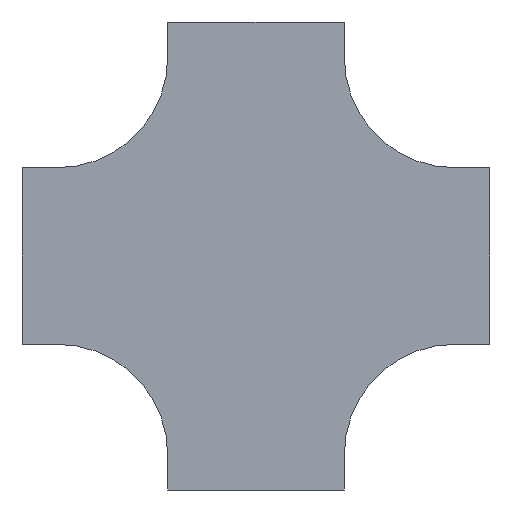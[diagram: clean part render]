
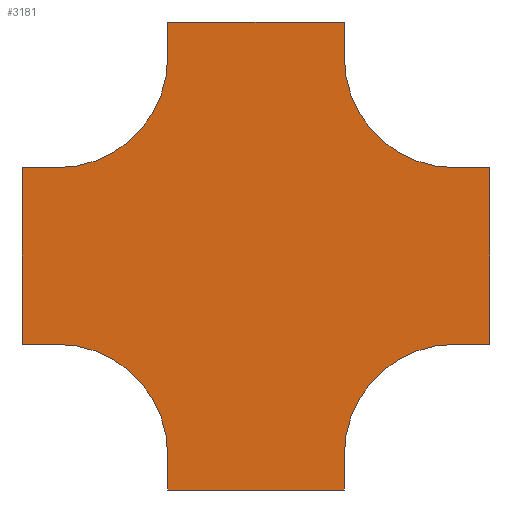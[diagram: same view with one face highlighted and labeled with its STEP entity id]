
A CAD part, front view. The second image highlights one B-rep face of the part: STEP entity #3181.
In plain terms, the highlighted planar face has unit normal (0, -1, 0).
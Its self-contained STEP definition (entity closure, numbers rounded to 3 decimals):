
#13 = CARTESIAN_POINT ( 'NONE',  ( -125., 0., 40. ) ) ;
#38 = VERTEX_POINT ( 'NONE', #2013 ) ;
#52 = DIRECTION ( 'NONE',  ( 1., 0., 0. ) ) ;
#57 = PLANE ( 'NONE',  #2842 ) ;
#70 = LINE ( 'NONE', #1831, #264 ) ;
#88 = ORIENTED_EDGE ( 'NONE', *, *, #3221, .F. ) ;
#125 = ORIENTED_EDGE ( 'NONE', *, *, #2780, .F. ) ;
#154 = DIRECTION ( 'NONE',  ( 1., 0., 0. ) ) ;
#181 = VERTEX_POINT ( 'NONE', #1371 ) ;
#193 = VERTEX_POINT ( 'NONE', #886 ) ;
#221 = EDGE_CURVE ( 'NONE', #1840, #2786, #3139, .T. ) ;
#231 = DIRECTION ( 'NONE',  ( 0., 0., 1. ) ) ;
#264 = VECTOR ( 'NONE', #332, 1000. ) ;
#267 = CARTESIAN_POINT ( 'NONE',  ( -490., 0., -125. ) ) ;
#281 = ORIENTED_EDGE ( 'NONE', *, *, #2448, .F. ) ;
#302 = FACE_OUTER_BOUND ( 'NONE', #2441, .T. ) ;
#308 = VECTOR ( 'NONE', #3103, 1000. ) ;
#332 = DIRECTION ( 'NONE',  ( -1., 0., 0. ) ) ;
#336 = LINE ( 'NONE', #13, #2430 ) ;
#402 = EDGE_CURVE ( 'NONE', #181, #38, #812, .T. ) ;
#405 = CARTESIAN_POINT ( 'NONE',  ( -450., 0., 0. ) ) ;
#409 = EDGE_CURVE ( 'NONE', #2172, #2983, #2865, .T. ) ;
#461 = EDGE_CURVE ( 'NONE', #2983, #3043, #1763, .T. ) ;
#510 = CARTESIAN_POINT ( 'NONE',  ( 0., 0., 0. ) ) ;
#514 = ORIENTED_EDGE ( 'NONE', *, *, #1442, .F. ) ;
#522 = LINE ( 'NONE', #1830, #3028 ) ;
#548 = ORIENTED_EDGE ( 'NONE', *, *, #409, .F. ) ;
#569 = CARTESIAN_POINT ( 'NONE',  ( 0., 0., -325. ) ) ;
#582 = CIRCLE ( 'NONE', #1319, 125. ) ;
#694 = CARTESIAN_POINT ( 'NONE',  ( 40., 0., -125. ) ) ;
#695 = DIRECTION ( 'NONE',  ( 0., -1., 0. ) ) ;
#705 = EDGE_CURVE ( 'NONE', #813, #181, #582, .T. ) ;
#716 = VERTEX_POINT ( 'NONE', #2470 ) ;
#733 = ORIENTED_EDGE ( 'NONE', *, *, #705, .F. ) ;
#753 = CARTESIAN_POINT ( 'NONE',  ( 0., 0., -450. ) ) ;
#756 = LINE ( 'NONE', #694, #2759 ) ;
#801 = VECTOR ( 'NONE', #231, 1000. ) ;
#812 = LINE ( 'NONE', #1789, #801 ) ;
#813 = VERTEX_POINT ( 'NONE', #1455 ) ;
#870 = CARTESIAN_POINT ( 'NONE',  ( -490., 0., -125. ) ) ;
#878 = CARTESIAN_POINT ( 'NONE',  ( -450., 0., -325. ) ) ;
#884 = AXIS2_PLACEMENT_3D ( 'NONE', #753, #1264, #2279 ) ;
#885 = EDGE_CURVE ( 'NONE', #2139, #2219, #1529, .T. ) ;
#886 = CARTESIAN_POINT ( 'NONE',  ( -325., 0., -490. ) ) ;
#889 = VERTEX_POINT ( 'NONE', #2749 ) ;
#918 = DIRECTION ( 'NONE',  ( -1., 0., 0. ) ) ;
#934 = VECTOR ( 'NONE', #154, 1000. ) ;
#975 = ORIENTED_EDGE ( 'NONE', *, *, #3261, .F. ) ;
#993 = ORIENTED_EDGE ( 'NONE', *, *, #2435, .F. ) ;
#1008 = EDGE_CURVE ( 'NONE', #1964, #193, #70, .T. ) ;
#1068 = ORIENTED_EDGE ( 'NONE', *, *, #461, .F. ) ;
#1071 = CARTESIAN_POINT ( 'NONE',  ( 0., 0., 0. ) ) ;
#1078 = LINE ( 'NONE', #1342, #1432 ) ;
#1116 = CARTESIAN_POINT ( 'NONE',  ( -325., 0., -450. ) ) ;
#1149 = CARTESIAN_POINT ( 'NONE',  ( -125., 0., 0. ) ) ;
#1161 = AXIS2_PLACEMENT_3D ( 'NONE', #2051, #1759, #3053 ) ;
#1171 = LINE ( 'NONE', #2412, #934 ) ;
#1172 = VECTOR ( 'NONE', #3042, 1000. ) ;
#1190 = CARTESIAN_POINT ( 'NONE',  ( -490., 0., -325. ) ) ;
#1206 = DIRECTION ( 'NONE',  ( 0., 0., 1. ) ) ;
#1252 = CARTESIAN_POINT ( 'NONE',  ( 0., 0., -325. ) ) ;
#1264 = DIRECTION ( 'NONE',  ( 0., -1., 0. ) ) ;
#1292 = VERTEX_POINT ( 'NONE', #1252 ) ;
#1315 = CARTESIAN_POINT ( 'NONE',  ( -125., 0., -490. ) ) ;
#1319 = AXIS2_PLACEMENT_3D ( 'NONE', #405, #695, #1206 ) ;
#1342 = CARTESIAN_POINT ( 'NONE',  ( -450., 0., -125. ) ) ;
#1361 = CIRCLE ( 'NONE', #884, 125. ) ;
#1371 = CARTESIAN_POINT ( 'NONE',  ( -325., 0., 0. ) ) ;
#1383 = LINE ( 'NONE', #878, #2205 ) ;
#1406 = ORIENTED_EDGE ( 'NONE', *, *, #2043, .F. ) ;
#1432 = VECTOR ( 'NONE', #52, 1000. ) ;
#1442 = EDGE_CURVE ( 'NONE', #2786, #813, #1078, .T. ) ;
#1455 = CARTESIAN_POINT ( 'NONE',  ( -450., 0., -125. ) ) ;
#1529 = CIRCLE ( 'NONE', #1161, 125. ) ;
#1532 = DIRECTION ( 'NONE',  ( 0., 0., 1. ) ) ;
#1689 = ORIENTED_EDGE ( 'NONE', *, *, #3086, .F. ) ;
#1708 = CARTESIAN_POINT ( 'NONE',  ( 0., 0., -125. ) ) ;
#1759 = DIRECTION ( 'NONE',  ( 0., -1., 0. ) ) ;
#1760 = CARTESIAN_POINT ( 'NONE',  ( 40., 0., -125. ) ) ;
#1763 = LINE ( 'NONE', #2027, #1172 ) ;
#1789 = CARTESIAN_POINT ( 'NONE',  ( -325., 0., 40. ) ) ;
#1830 = CARTESIAN_POINT ( 'NONE',  ( -325., 0., -490. ) ) ;
#1831 = CARTESIAN_POINT ( 'NONE',  ( -325., 0., -490. ) ) ;
#1840 = VERTEX_POINT ( 'NONE', #1190 ) ;
#1841 = DIRECTION ( 'NONE',  ( 0., 0., 1. ) ) ;
#1865 = ORIENTED_EDGE ( 'NONE', *, *, #402, .F. ) ;
#1876 = EDGE_CURVE ( 'NONE', #3043, #2204, #756, .T. ) ;
#1964 = VERTEX_POINT ( 'NONE', #1315 ) ;
#1999 = ORIENTED_EDGE ( 'NONE', *, *, #885, .F. ) ;
#2009 = DIRECTION ( 'NONE',  ( 0., -1., 0. ) ) ;
#2013 = CARTESIAN_POINT ( 'NONE',  ( -325., 0., 40. ) ) ;
#2021 = VECTOR ( 'NONE', #1841, 1000. ) ;
#2027 = CARTESIAN_POINT ( 'NONE',  ( 0., 0., -125. ) ) ;
#2038 = LINE ( 'NONE', #2554, #308 ) ;
#2043 = EDGE_CURVE ( 'NONE', #193, #2139, #522, .T. ) ;
#2051 = CARTESIAN_POINT ( 'NONE',  ( -450., 0., -450. ) ) ;
#2078 = LINE ( 'NONE', #569, #2272 ) ;
#2086 = DIRECTION ( 'NONE',  ( 0., -1., 0. ) ) ;
#2099 = ORIENTED_EDGE ( 'NONE', *, *, #221, .F. ) ;
#2108 = CARTESIAN_POINT ( 'NONE',  ( 40., 0., -325. ) ) ;
#2110 = DIRECTION ( 'NONE',  ( 0., 0., -1. ) ) ;
#2139 = VERTEX_POINT ( 'NONE', #1116 ) ;
#2172 = VERTEX_POINT ( 'NONE', #1149 ) ;
#2204 = VERTEX_POINT ( 'NONE', #2108 ) ;
#2205 = VECTOR ( 'NONE', #918, 1000. ) ;
#2219 = VERTEX_POINT ( 'NONE', #2876 ) ;
#2272 = VECTOR ( 'NONE', #2592, 1000. ) ;
#2279 = DIRECTION ( 'NONE',  ( 0., 0., 1. ) ) ;
#2310 = DIRECTION ( 'NONE',  ( 0., 0., -1. ) ) ;
#2319 = DIRECTION ( 'NONE',  ( 0., 0., -1. ) ) ;
#2412 = CARTESIAN_POINT ( 'NONE',  ( -325., 0., 40. ) ) ;
#2430 = VECTOR ( 'NONE', #2310, 1000. ) ;
#2435 = EDGE_CURVE ( 'NONE', #2204, #1292, #2078, .T. ) ;
#2441 = EDGE_LOOP ( 'NONE', ( #975, #1865, #733, #514, #2099, #88, #1999, #1406, #2685, #1689, #281, #993, #3219, #1068, #548, #125 ) ) ;
#2448 = EDGE_CURVE ( 'NONE', #1292, #889, #1361, .T. ) ;
#2470 = CARTESIAN_POINT ( 'NONE',  ( -125., 0., 40. ) ) ;
#2518 = DIRECTION ( 'NONE',  ( 0., 0., -1. ) ) ;
#2554 = CARTESIAN_POINT ( 'NONE',  ( -125., 0., -490. ) ) ;
#2592 = DIRECTION ( 'NONE',  ( -1., 0., 0. ) ) ;
#2653 = AXIS2_PLACEMENT_3D ( 'NONE', #510, #2009, #2319 ) ;
#2685 = ORIENTED_EDGE ( 'NONE', *, *, #1008, .F. ) ;
#2749 = CARTESIAN_POINT ( 'NONE',  ( -125., 0., -450. ) ) ;
#2759 = VECTOR ( 'NONE', #2518, 1000. ) ;
#2780 = EDGE_CURVE ( 'NONE', #716, #2172, #336, .T. ) ;
#2786 = VERTEX_POINT ( 'NONE', #267 ) ;
#2842 = AXIS2_PLACEMENT_3D ( 'NONE', #1071, #2086, #2110 ) ;
#2865 = CIRCLE ( 'NONE', #2653, 125. ) ;
#2876 = CARTESIAN_POINT ( 'NONE',  ( -450., 0., -325. ) ) ;
#2983 = VERTEX_POINT ( 'NONE', #1708 ) ;
#3028 = VECTOR ( 'NONE', #1532, 1000. ) ;
#3042 = DIRECTION ( 'NONE',  ( 1., 0., 0. ) ) ;
#3043 = VERTEX_POINT ( 'NONE', #1760 ) ;
#3053 = DIRECTION ( 'NONE',  ( 0., 0., -1. ) ) ;
#3086 = EDGE_CURVE ( 'NONE', #889, #1964, #2038, .T. ) ;
#3103 = DIRECTION ( 'NONE',  ( 0., 0., -1. ) ) ;
#3139 = LINE ( 'NONE', #870, #2021 ) ;
#3181 = ADVANCED_FACE ( 'NONE', ( #302 ), #57, .T. ) ;
#3219 = ORIENTED_EDGE ( 'NONE', *, *, #1876, .F. ) ;
#3221 = EDGE_CURVE ( 'NONE', #2219, #1840, #1383, .T. ) ;
#3261 = EDGE_CURVE ( 'NONE', #38, #716, #1171, .T. ) ;
